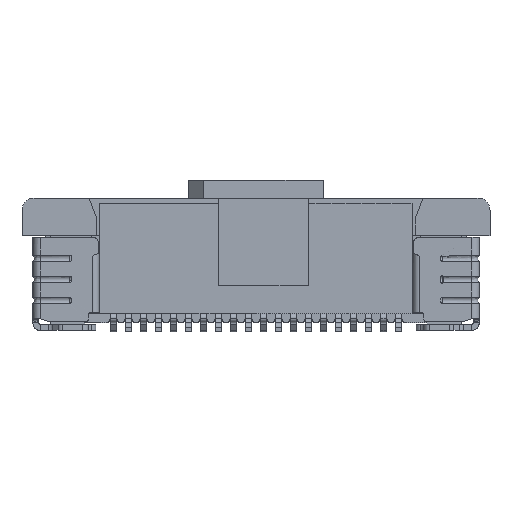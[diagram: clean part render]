
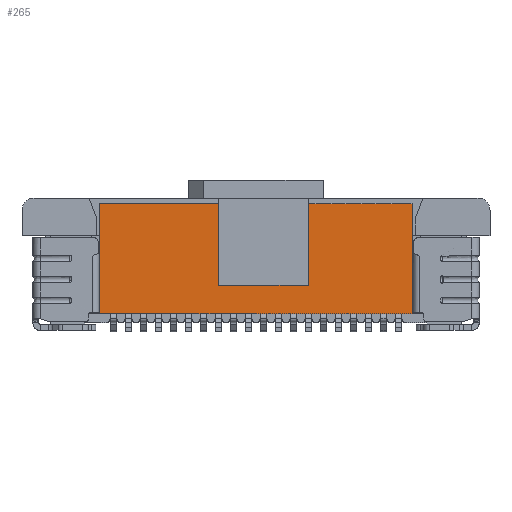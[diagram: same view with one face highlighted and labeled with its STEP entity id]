
A CAD part, front view. The second image highlights one B-rep face of the part: STEP entity #265.
In plain terms, the highlighted planar face has unit normal (0, -1, 0).
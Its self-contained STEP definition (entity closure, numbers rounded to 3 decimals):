
#265 = ADVANCED_FACE ( 'NONE', ( #83789, #56624 ), #57056, .F. ) ;
#788 = ORIENTED_EDGE ( 'NONE', *, *, #34518, .T. ) ;
#840 = LINE ( 'NONE', #41792, #74531 ) ;
#1486 = LINE ( 'NONE', #43321, #57969 ) ;
#2996 = VERTEX_POINT ( 'NONE', #32964 ) ;
#3557 = CARTESIAN_POINT ( 'NONE',  ( 8.591, -1., -1.797 ) ) ;
#6834 = ORIENTED_EDGE ( 'NONE', *, *, #42366, .T. ) ;
#7945 = CARTESIAN_POINT ( 'NONE',  ( 8.591, -1., -2.373 ) ) ;
#8035 = DIRECTION ( 'NONE',  ( 0., 0., -1. ) ) ;
#10008 = DIRECTION ( 'NONE',  ( -1., 0., 0. ) ) ;
#10924 = EDGE_CURVE ( 'NONE', #2996, #35454, #29843, .T. ) ;
#11249 = ORIENTED_EDGE ( 'NONE', *, *, #51407, .F. ) ;
#11340 = LINE ( 'NONE', #25563, #57143 ) ;
#14213 = VECTOR ( 'NONE', #80700, 1000. ) ;
#15504 = EDGE_LOOP ( 'NONE', ( #48371, #788, #6834, #19367 ) ) ;
#18302 = VECTOR ( 'NONE', #65630, 1000. ) ;
#19367 = ORIENTED_EDGE ( 'NONE', *, *, #80361, .F. ) ;
#19756 = LINE ( 'NONE', #52261, #18302 ) ;
#20649 = EDGE_CURVE ( 'NONE', #23106, #53390, #19756, .T. ) ;
#23102 = VERTEX_POINT ( 'NONE', #58370 ) ;
#23106 = VERTEX_POINT ( 'NONE', #45913 ) ;
#23256 = DIRECTION ( 'NONE',  ( 1., 0., 0. ) ) ;
#25521 = LINE ( 'NONE', #66024, #14213 ) ;
#25563 = CARTESIAN_POINT ( 'NONE',  ( 8.591, -1., -1.797 ) ) ;
#25625 = EDGE_CURVE ( 'NONE', #73892, #23106, #840, .T. ) ;
#28275 = VERTEX_POINT ( 'NONE', #72206 ) ;
#29843 = LINE ( 'NONE', #3557, #47711 ) ;
#32930 = VECTOR ( 'NONE', #10008, 1000. ) ;
#32964 = CARTESIAN_POINT ( 'NONE',  ( 8.591, -1., -1.797 ) ) ;
#33818 = DIRECTION ( 'NONE',  ( -1., 0., 0. ) ) ;
#33932 = AXIS2_PLACEMENT_3D ( 'NONE', #84224, #43724, #23256 ) ;
#34391 = VECTOR ( 'NONE', #8035, 1000. ) ;
#34518 = EDGE_CURVE ( 'NONE', #2996, #23102, #11340, .T. ) ;
#35454 = VERTEX_POINT ( 'NONE', #41144 ) ;
#36026 = LINE ( 'NONE', #61434, #34391 ) ;
#41144 = CARTESIAN_POINT ( 'NONE',  ( 5.6, -1., -1.797 ) ) ;
#41792 = CARTESIAN_POINT ( 'NONE',  ( 12.05, -1., -3.66 ) ) ;
#42366 = EDGE_CURVE ( 'NONE', #23102, #84228, #76019, .T. ) ;
#42441 = DIRECTION ( 'NONE',  ( 1., 0., 0. ) ) ;
#43321 = CARTESIAN_POINT ( 'NONE',  ( 1.65, -1., 0. ) ) ;
#43724 = DIRECTION ( 'NONE',  ( 0., 1., 0. ) ) ;
#44162 = ORIENTED_EDGE ( 'NONE', *, *, #25625, .F. ) ;
#45913 = CARTESIAN_POINT ( 'NONE',  ( 1.65, -1., -3.66 ) ) ;
#47711 = VECTOR ( 'NONE', #56959, 1000. ) ;
#48371 = ORIENTED_EDGE ( 'NONE', *, *, #10924, .F. ) ;
#49797 = CARTESIAN_POINT ( 'NONE',  ( 1.65, -1., 0. ) ) ;
#51407 = EDGE_CURVE ( 'NONE', #53390, #28275, #1486, .T. ) ;
#52261 = CARTESIAN_POINT ( 'NONE',  ( 1.65, -1., -3.66 ) ) ;
#53390 = VERTEX_POINT ( 'NONE', #49797 ) ;
#55982 = ORIENTED_EDGE ( 'NONE', *, *, #66202, .F. ) ;
#56624 = FACE_OUTER_BOUND ( 'NONE', #58930, .T. ) ;
#56959 = DIRECTION ( 'NONE',  ( -1., 0., 0. ) ) ;
#57056 = PLANE ( 'NONE',  #33932 ) ;
#57143 = VECTOR ( 'NONE', #79860, 1000. ) ;
#57969 = VECTOR ( 'NONE', #42441, 1000. ) ;
#58370 = CARTESIAN_POINT ( 'NONE',  ( 8.591, -1., -2.373 ) ) ;
#58930 = EDGE_LOOP ( 'NONE', ( #11249, #73448, #44162, #55982 ) ) ;
#61434 = CARTESIAN_POINT ( 'NONE',  ( 12.05, -1., 0. ) ) ;
#63759 = CARTESIAN_POINT ( 'NONE',  ( 5.6, -1., -2.373 ) ) ;
#64078 = CARTESIAN_POINT ( 'NONE',  ( 12.05, -1., -3.66 ) ) ;
#65630 = DIRECTION ( 'NONE',  ( 0., 0., 1. ) ) ;
#66024 = CARTESIAN_POINT ( 'NONE',  ( 5.6, -1., -1.797 ) ) ;
#66202 = EDGE_CURVE ( 'NONE', #28275, #73892, #36026, .T. ) ;
#72206 = CARTESIAN_POINT ( 'NONE',  ( 12.05, -1., 0. ) ) ;
#73448 = ORIENTED_EDGE ( 'NONE', *, *, #20649, .F. ) ;
#73892 = VERTEX_POINT ( 'NONE', #64078 ) ;
#74531 = VECTOR ( 'NONE', #33818, 1000. ) ;
#76019 = LINE ( 'NONE', #7945, #32930 ) ;
#79860 = DIRECTION ( 'NONE',  ( 0., 0., -1. ) ) ;
#80361 = EDGE_CURVE ( 'NONE', #35454, #84228, #25521, .T. ) ;
#80700 = DIRECTION ( 'NONE',  ( 0., 0., -1. ) ) ;
#83789 = FACE_BOUND ( 'NONE', #15504, .T. ) ;
#84224 = CARTESIAN_POINT ( 'NONE',  ( 6.85, -1., -1.83 ) ) ;
#84228 = VERTEX_POINT ( 'NONE', #63759 ) ;
